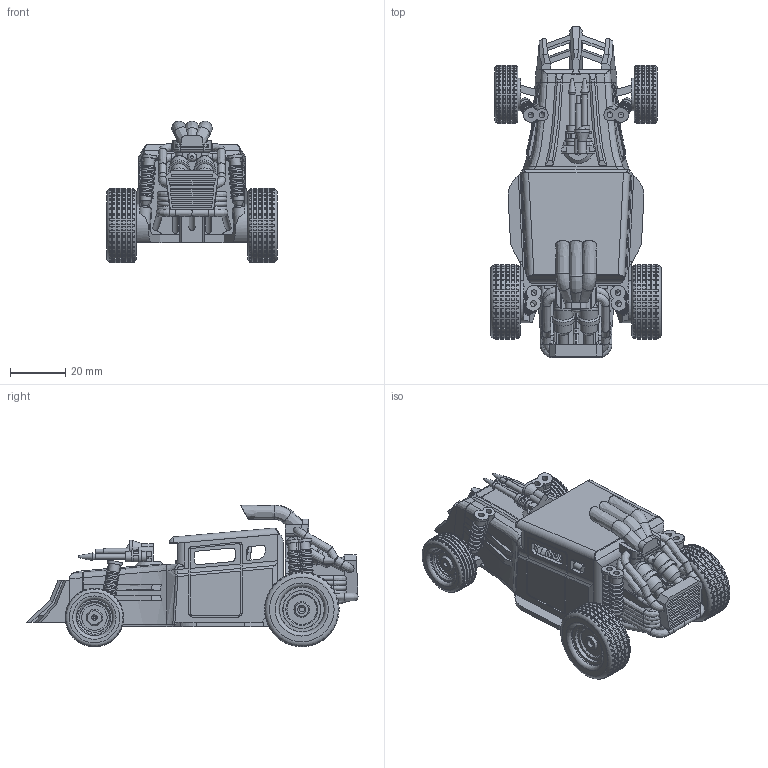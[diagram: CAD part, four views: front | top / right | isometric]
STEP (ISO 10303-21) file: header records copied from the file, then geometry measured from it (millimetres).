
FILE_DESCRIPTION(/* description */ (''),/* implementation_level */ '2;1');
FILE_NAME(/* name */ 'Mad Max vehicle STEP.stp',/* time_stamp */ '2024-08-19T19:42:24+08:00',/* author */ (''),/* organization */ (''),/* preprocessor_version */ 'ST-DEVELOPER v16',/* originating_system */ 'SIEMENS PLM Software NX 10.0',/* authorisation */ '');
FILE_SCHEMA (('AP203_CONFIGURATION_CONTROLLED_3D_DESIGN_OF_MECHANICAL_PARTS_AND_ASSEMBLIES_MIM_LF { 1 0 10303 403 2 1 2}'));
Products named in the file (1): Admi1E60442Dgo3o
Bounding box: 61.82 x 120.25 x 51.24 mm (x, y, z)
Volume: 52898.2 mm3; surface area: 62723.3 mm2
Topology: 26 solids, 30 shells, 5749 faces, 14914 edges, 9891 vertices
Faces by surface type: plane 4254, cylinder 1010, bspline 334, cone 103, torus 42, extrusion 4, sphere 2
Full cylindrical faces by diameter (mm): 1.458 x2, 1.5 x3, 1.758 x2, 1.9 x1, 2 x9, 2.12 x8, 2.121 x5, 2.15 x1, 2.35 x6, 2.5 x2, 2.765 x1, 3.347 x1, 3.483 x2, 3.766 x2, 4 x3, 6.283 x2, 6.751 x2, 6.8 x1, 7.843 x2, 9.2 x2, 10.1 x2, 10.7 x2, 10.8 x2, 13 x4, 13.1 x2, 13.3 x4, 13.4 x2, 13.7 x4, 13.8 x2, 15.24 x2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
Entity records: 210629 total; most frequent: CARTESIAN_POINT 71523, ORIENTED_EDGE 29124, DIRECTION 27978, EDGE_CURVE 14562, AXIS2_PLACEMENT_3D 9915, VERTEX_POINT 9771, VECTOR 8148, LINE 8144
